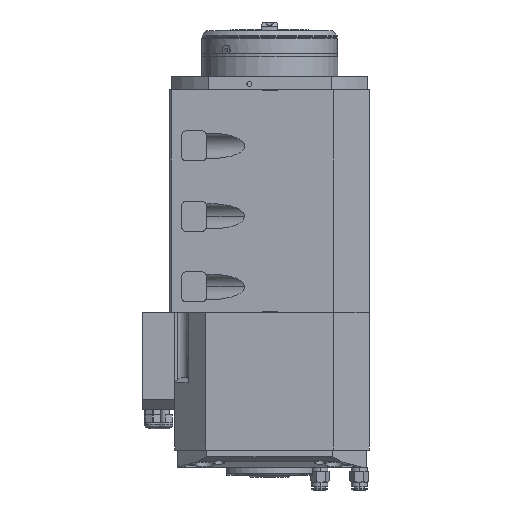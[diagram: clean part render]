
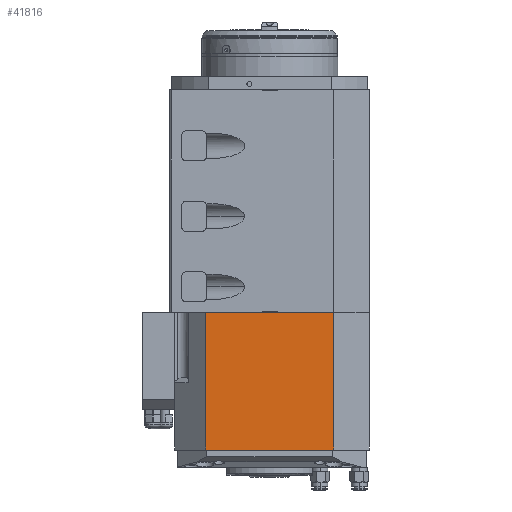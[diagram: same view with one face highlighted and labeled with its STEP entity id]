
A CAD part, front view. The second image highlights one B-rep face of the part: STEP entity #41816.
In plain terms, the highlighted planar face has unit normal (0, -1, 0).
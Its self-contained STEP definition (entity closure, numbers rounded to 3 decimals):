
#836 = VERTEX_POINT ( 'NONE', #34973 ) ;
#877 = VERTEX_POINT ( 'NONE', #35034 ) ;
#923 = VERTEX_POINT ( 'NONE', #35100 ) ;
#925 = VERTEX_POINT ( 'NONE', #35103 ) ;
#1764 = EDGE_LOOP ( 'NONE', ( #31790, #31793, #31795, #31797 ) ) ;
#5723 = PLANE ( 'NONE',  #6157 ) ;
#5742 = CARTESIAN_POINT ( 'NONE',  ( -94., -99., -417.5 ) ) ;
#5743 = DIRECTION ( 'NONE',  ( 0., -1., 0. ) ) ;
#5744 = DIRECTION ( 'NONE',  ( 0., 0., -1. ) ) ;
#6157 = AXIS2_PLACEMENT_3D ( 'NONE', #5742, #5743, #5744 ) ;
#8041 = FACE_OUTER_BOUND ( 'NONE', #1764, .T. ) ;
#29078 = LINE ( 'NONE', #30379, #29081 ) ;
#29081 = VECTOR ( 'NONE', #30382, 1000. ) ;
#29200 = LINE ( 'NONE', #30812, #29201 ) ;
#29201 = VECTOR ( 'NONE', #30808, 1000. ) ;
#29419 = LINE ( 'NONE', #31395, #29422 ) ;
#29422 = VECTOR ( 'NONE', #31398, 1000. ) ;
#29515 = LINE ( 'NONE', #31904, #29517 ) ;
#29517 = VECTOR ( 'NONE', #31887, 1000. ) ;
#30379 = CARTESIAN_POINT ( 'NONE',  ( 63.5, -99., -417.5 ) ) ;
#30382 = DIRECTION ( 'NONE',  ( 0., 0., 1. ) ) ;
#30808 = DIRECTION ( 'NONE',  ( 1., 0., 0. ) ) ;
#30812 = CARTESIAN_POINT ( 'NONE',  ( -94., -99., -280.5 ) ) ;
#31395 = CARTESIAN_POINT ( 'NONE',  ( -94., -99., -417.5 ) ) ;
#31398 = DIRECTION ( 'NONE',  ( 1., 0., 0. ) ) ;
#31790 = ORIENTED_EDGE ( 'NONE', *, *, #44498, .T. ) ;
#31793 = ORIENTED_EDGE ( 'NONE', *, *, #44594, .F. ) ;
#31795 = ORIENTED_EDGE ( 'NONE', *, *, #44818, .T. ) ;
#31797 = ORIENTED_EDGE ( 'NONE', *, *, #44740, .T. ) ;
#31887 = DIRECTION ( 'NONE',  ( 0., 0., -1. ) ) ;
#31904 = CARTESIAN_POINT ( 'NONE',  ( -63.5, -99., -417.5 ) ) ;
#34973 = CARTESIAN_POINT ( 'NONE',  ( 63.5, -99., -280.5 ) ) ;
#35034 = CARTESIAN_POINT ( 'NONE',  ( 63.5, -99., -417.5 ) ) ;
#35100 = CARTESIAN_POINT ( 'NONE',  ( -63.5, -99., -280.5 ) ) ;
#35103 = CARTESIAN_POINT ( 'NONE',  ( -63.5, -99., -417.5 ) ) ;
#41816 = ADVANCED_FACE ( 'NONE', ( #8041 ), #5723, .T. ) ;
#44498 = EDGE_CURVE ( 'NONE', #877, #836, #29078, .T. ) ;
#44594 = EDGE_CURVE ( 'NONE', #923, #836, #29200, .T. ) ;
#44740 = EDGE_CURVE ( 'NONE', #925, #877, #29419, .T. ) ;
#44818 = EDGE_CURVE ( 'NONE', #923, #925, #29515, .T. ) ;
